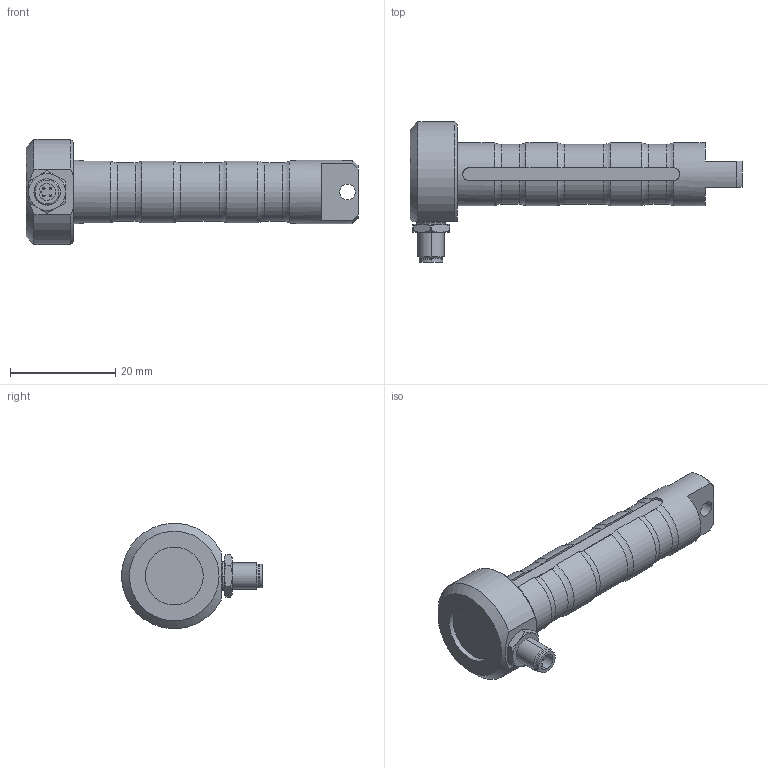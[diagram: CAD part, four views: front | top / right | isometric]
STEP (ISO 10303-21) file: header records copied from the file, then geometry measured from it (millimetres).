
FILE_DESCRIPTION(/* description */ ('Alibre Inc.'),/* implementation_level */ '2;1');
FILE_NAME(/* name */ 'export-08261593-1161-43C8-A406-A0E29A86F3FC',/* time_stamp */ '2022-07-14T07:54:45+02:00',/* author */ (''),/* organization */ (''),/* preprocessor_version */ 'ST-DEVELOPER v17',/* originating_system */ 'Alibre',/* authorisation */ '');
FILE_SCHEMA (('CONFIG_CONTROL_DESIGN'));
Length unit declared in the file: millimetre
Bounding box: 63 x 26.66 x 19.94 mm (x, y, z)
Volume: 8061.6 mm3; surface area: 3712.3 mm2
Topology: 2 solids, 2 shells, 137 faces, 344 edges, 219 vertices
Faces by surface type: cylinder 58, plane 35, cone 20, torus 16, sphere 8
Full cylindrical faces by diameter (mm): 3 x1, 4.5 x1, 11 x1, 12 x2
Entity records: 3933 total; most frequent: CARTESIAN_POINT 894, ORIENTED_EDGE 650, DIRECTION 466, EDGE_CURVE 325, VERTEX_POINT 214, AXIS2_PLACEMENT_3D 202, EDGE_LOOP 161, FACE_BOUND 161
